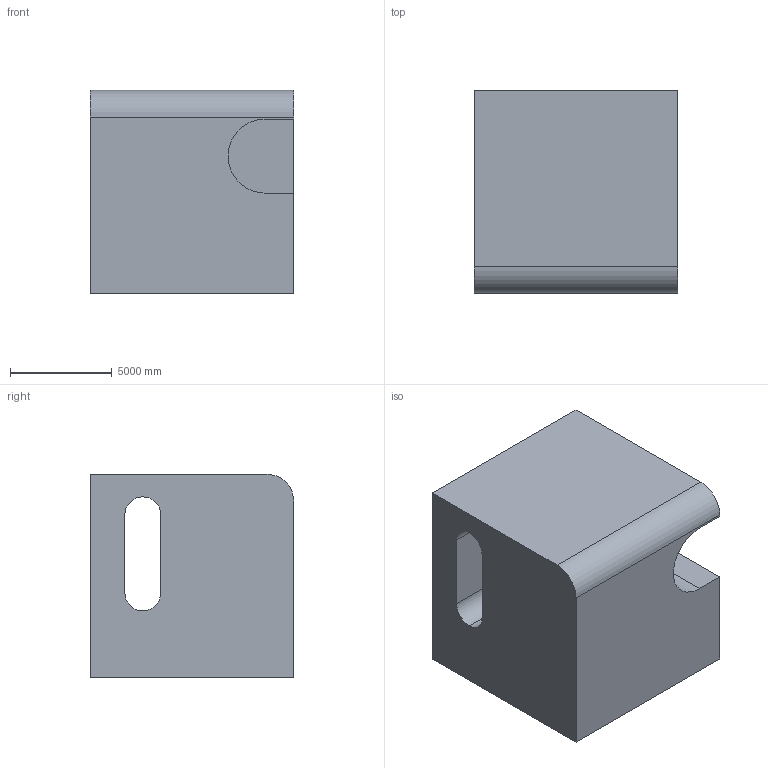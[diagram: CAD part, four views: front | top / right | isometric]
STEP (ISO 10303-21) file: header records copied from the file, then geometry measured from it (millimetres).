
FILE_DESCRIPTION (( 'STEP AP203' ), '1' );
FILE_NAME ('313.STEP', '2022-07-28T14:18:16', ( 'user' ), ( '' ), 'SwSTEP 2.0', 'SolidWorks 2021', '' );
FILE_SCHEMA (( 'CONFIG_CONTROL_DESIGN' ));
Length unit declared in the file: centimetre
Products named in the file (1): 313
Bounding box: 10000 x 10000 x 10000 mm (x, y, z)
Volume: 839963200096.2 mm3; surface area: 740402967 mm2
Topology: 1 solids, 1 shells, 22 faces, 60 edges, 40 vertices
Faces by surface type: plane 17, cylinder 5
Entity records: 779 total; most frequent: CARTESIAN_POINT 123, ORIENTED_EDGE 120, DIRECTION 116, EDGE_CURVE 60, VECTOR 50, LINE 50, VERTEX_POINT 40, AXIS2_PLACEMENT_3D 33
